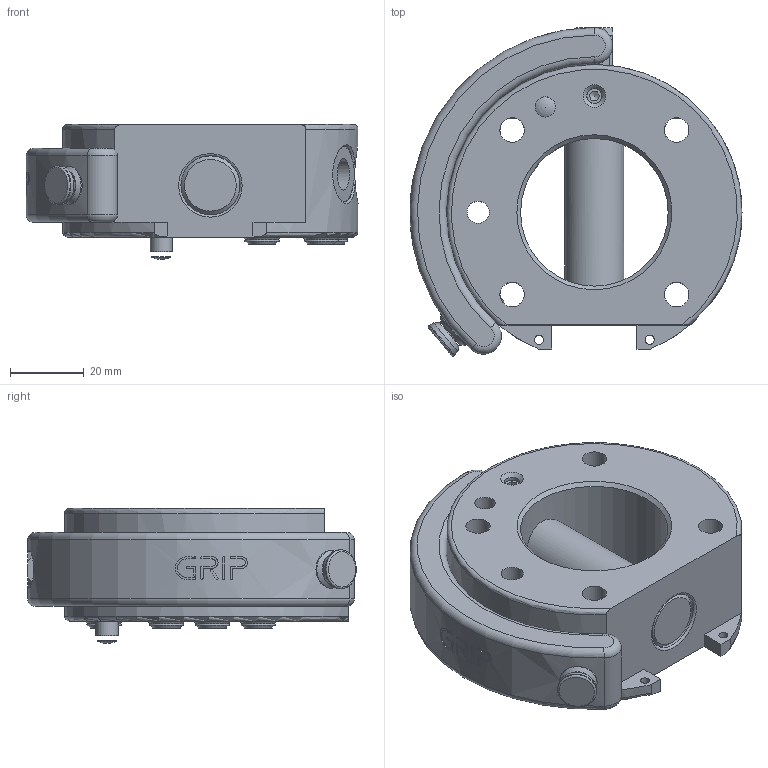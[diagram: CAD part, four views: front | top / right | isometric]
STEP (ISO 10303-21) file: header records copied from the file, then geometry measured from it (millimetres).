
FILE_DESCRIPTION(/* description */ (''),/* implementation_level */ '2;1');
FILE_NAME(/* name */ 'G-HWS080-O-K063_Rev.1.01.stp',/* time_stamp */ '2025-04-01T13:19:58+02:00',/* author */ ('ysplieth'),/* organization */ (''),/* preprocessor_version */ 'ST-DEVELOPER v20',/* originating_system */ 'Autodesk Inventor 2024',/* authorisation */ '');
FILE_SCHEMA (('AUTOMOTIVE_DESIGN { 1 0 10303 214 3 1 1 }'));
Length unit declared in the file: millimetre
Products named in the file (1): Bauteil4
Bounding box: 89.96 x 89.02 x 36.6 mm (x, y, z)
Volume: 123875.1 mm3; surface area: 33145.7 mm2
Topology: 1 solids, 2 shells, 441 faces, 1145 edges, 758 vertices
Faces by surface type: plane 155, bspline 128, cylinder 100, cone 36, torus 20, sphere 2
Full cylindrical faces by diameter (mm): 0.595 x1, 2.459 x2, 3.5 x1, 4.134 x2, 4.8 x1, 5 x7, 5.2 x4, 5.5 x1, 6 x2, 6.5 x1, 6.6 x4, 6.647 x4, 8.566 x4, 9.9 x4, 10.2 x1, 10.6 x1, 11 x4, 16 x2, 40 x1
Entity records: 17104 total; most frequent: CARTESIAN_POINT 6794, ORIENTED_EDGE 2276, DIRECTION 1633, EDGE_CURVE 1138, VERTEX_POINT 758, AXIS2_PLACEMENT_3D 562, EDGE_LOOP 530, LINE 509
